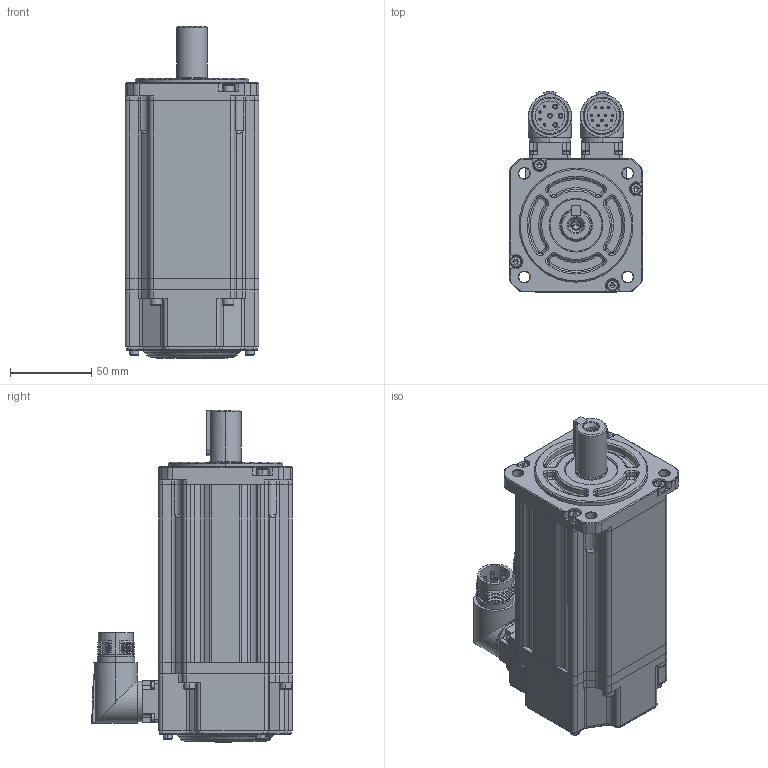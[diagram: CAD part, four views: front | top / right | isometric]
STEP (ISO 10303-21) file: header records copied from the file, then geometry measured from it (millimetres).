
FILE_DESCRIPTION (( 'STEP AP203' ), '1' );
FILE_NAME ('MC20-080-3L30-N102-1¡õPK-NNNN.STEP', '2025-05-04T11:47:09', ( '' ), ( '' ), 'SwSTEP 2.0', 'SolidWorks 2014', '' );
FILE_SCHEMA (( 'CONFIG_CONTROL_DESIGN' ));
Length unit declared in the file: millimetre
Products named in the file (1): MC20-080-3L30-N102-1¡õPK-NNNN
Bounding box: 82 x 123.35 x 204 mm (x, y, z)
Volume: 1109725.1 mm3; surface area: 156473.9 mm2
Topology: 28 solids, 28 shells, 1869 faces, 4422 edges, 2675 vertices
Faces by surface type: plane 754, cylinder 543, cone 316, torus 174, bspline 82
Entity records: 56181 total; most frequent: CARTESIAN_POINT 13056, DIRECTION 9351, ORIENTED_EDGE 8696, EDGE_CURVE 4348, AXIS2_PLACEMENT_3D 3609, VERTEX_POINT 2675, LINE 2133, VECTOR 2133
